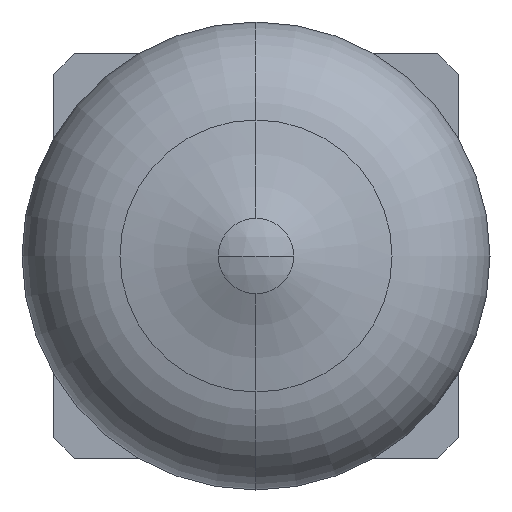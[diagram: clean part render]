
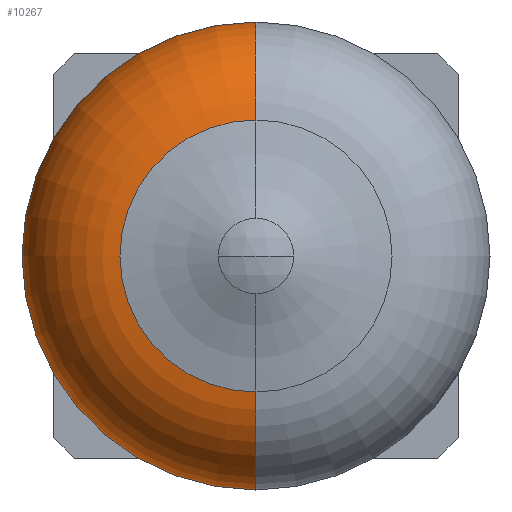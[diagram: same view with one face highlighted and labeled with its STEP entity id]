
A CAD part, left-side view. The second image highlights one B-rep face of the part: STEP entity #10267.
In plain terms, the highlighted toroidal (fillet/blend) face has major radius 2.05 mm and minor radius 2 mm.
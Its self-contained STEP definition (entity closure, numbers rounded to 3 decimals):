
#130 = VERTEX_POINT ( 'NONE', #218 ) ;
#218 = CARTESIAN_POINT ( 'NONE',  ( -11.377, 0., 2.355 ) ) ;
#320 = DIRECTION ( 'NONE',  ( 0., -1., 0. ) ) ;
#680 = TOROIDAL_SURFACE ( 'NONE', #10530, 2.05, 2. ) ;
#836 = ORIENTED_EDGE ( 'NONE', *, *, #9051, .T. ) ;
#1001 = AXIS2_PLACEMENT_3D ( 'NONE', #8975, #3627, #9889 ) ;
#1077 = CARTESIAN_POINT ( 'NONE',  ( -9.4, 0., 0. ) ) ;
#1459 = ORIENTED_EDGE ( 'NONE', *, *, #6942, .F. ) ;
#1622 = VERTEX_POINT ( 'NONE', #6938 ) ;
#1987 = DIRECTION ( 'NONE',  ( 0., 0., 1. ) ) ;
#3442 = EDGE_LOOP ( 'NONE', ( #10435, #836, #6074, #1459 ) ) ;
#3627 = DIRECTION ( 'NONE',  ( 0., 1., 0. ) ) ;
#3791 = CIRCLE ( 'NONE', #7574, 4.05 ) ;
#5201 = CIRCLE ( 'NONE', #9273, 2. ) ;
#5288 = DIRECTION ( 'NONE',  ( -1., 0., 0. ) ) ;
#5291 = DIRECTION ( 'NONE',  ( -1., 0., 0. ) ) ;
#5655 = CARTESIAN_POINT ( 'NONE',  ( -9.4, 0., 2.05 ) ) ;
#6074 = ORIENTED_EDGE ( 'NONE', *, *, #8601, .F. ) ;
#6552 = DIRECTION ( 'NONE',  ( 0., 0., -1. ) ) ;
#6938 = CARTESIAN_POINT ( 'NONE',  ( -11.377, 0., -2.355 ) ) ;
#6942 = EDGE_CURVE ( 'NONE', #10373, #130, #5201, .T. ) ;
#7310 = DIRECTION ( 'NONE',  ( -1., 0., 0. ) ) ;
#7574 = AXIS2_PLACEMENT_3D ( 'NONE', #1077, #7310, #1987 ) ;
#8601 = EDGE_CURVE ( 'NONE', #130, #1622, #8968, .T. ) ;
#8968 = CIRCLE ( 'NONE', #9245, 2.355 ) ;
#8975 = CARTESIAN_POINT ( 'NONE',  ( -9.4, 0., -2.05 ) ) ;
#9051 = EDGE_CURVE ( 'NONE', #11412, #1622, #9388, .T. ) ;
#9141 = EDGE_CURVE ( 'NONE', #10373, #11412, #3791, .T. ) ;
#9245 = AXIS2_PLACEMENT_3D ( 'NONE', #10666, #5288, #11566 ) ;
#9273 = AXIS2_PLACEMENT_3D ( 'NONE', #5655, #320, #6552 ) ;
#9388 = CIRCLE ( 'NONE', #1001, 2. ) ;
#9647 = FACE_OUTER_BOUND ( 'NONE', #3442, .T. ) ;
#9889 = DIRECTION ( 'NONE',  ( 0., 0., 1. ) ) ;
#10267 = ADVANCED_FACE ( 'NONE', ( #9647 ), #680, .T. ) ;
#10373 = VERTEX_POINT ( 'NONE', #11190 ) ;
#10435 = ORIENTED_EDGE ( 'NONE', *, *, #9141, .T. ) ;
#10530 = AXIS2_PLACEMENT_3D ( 'NONE', #10669, #5291, #11570 ) ;
#10613 = CARTESIAN_POINT ( 'NONE',  ( -9.4, 0., -4.05 ) ) ;
#10666 = CARTESIAN_POINT ( 'NONE',  ( -11.377, 0., 0. ) ) ;
#10669 = CARTESIAN_POINT ( 'NONE',  ( -9.4, 0., 0. ) ) ;
#11190 = CARTESIAN_POINT ( 'NONE',  ( -9.4, 0., 4.05 ) ) ;
#11412 = VERTEX_POINT ( 'NONE', #10613 ) ;
#11566 = DIRECTION ( 'NONE',  ( 0., 0., 1. ) ) ;
#11570 = DIRECTION ( 'NONE',  ( 0., 0., 1. ) ) ;
